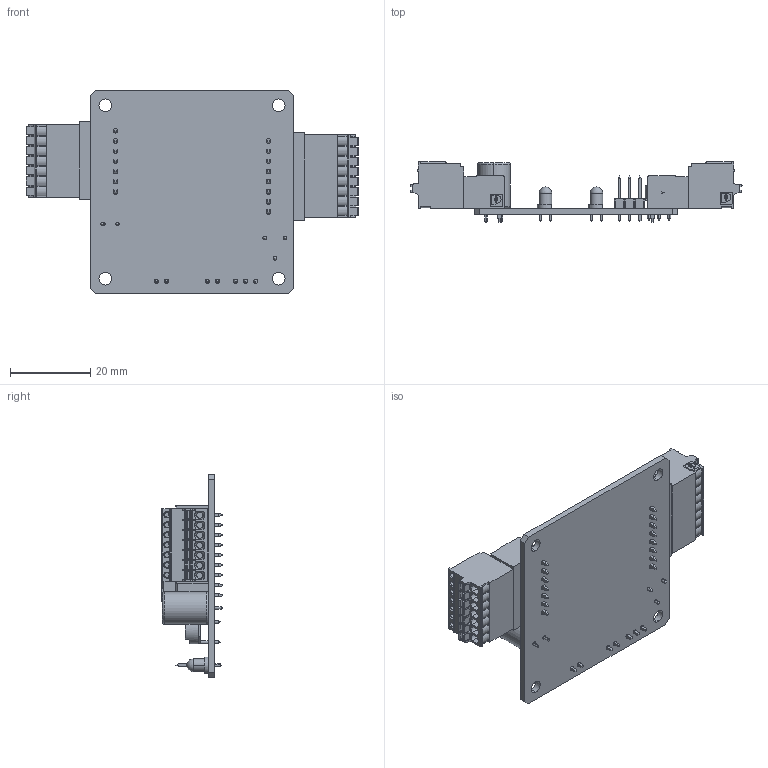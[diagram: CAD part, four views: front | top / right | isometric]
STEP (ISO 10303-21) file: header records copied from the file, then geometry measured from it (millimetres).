
FILE_DESCRIPTION (( 'STEP AP214' ), '1' );
FILE_NAME ('MDC151-024031TB.STEP', '2019-08-16T14:51:55', ( '' ), ( '' ), 'SwSTEP 2.0', 'SolidWorks 2019', '' );
FILE_SCHEMA (( 'AUTOMOTIVE_DESIGN' ));
Length unit declared in the file: inch
Products named in the file (12): 1881370; CAP-0039; LED-T-1-Series_LED-T-1-RED; mc_0.5-8-g-2.5; 1881383; POT-3306F Series; CON-929834-01-03; 1881503; MDC151-024031TB; AA6099PCB; LED-T-1-Series_LED-T-1-GRN; 1881493
Assembly tree (11 placements, depth 3):
  MDC151-024031TB
    AA6099PCB
    CAP-0039
    POT-3306F Series
    LED-T-1-Series_LED-T-1-GRN
    LED-T-1-Series_LED-T-1-RED
    CON-929834-01-03
    1881493
    1881503
      mc_0.5-8-g-2.5
    1881370
    1881383
Bounding box: 82.7 x 15.15 x 50.8 mm (x, y, z)
Volume: 12771 mm3; surface area: 14039.9 mm2
Topology: 10 solids, 10 shells, 2239 faces, 5714 edges, 3695 vertices
Faces by surface type: plane 1567, cylinder 599, cone 62, bspline 5, torus 4, sphere 2
Entity records: 97783 total; most frequent: CARTESIAN_POINT 13047, ORIENTED_EDGE 11416, DIRECTION 11307, EDGE_CURVE 5708, VECTOR 4285, LINE 4285, VERTEX_POINT 3691, AXIS2_PLACEMENT_3D 3511
